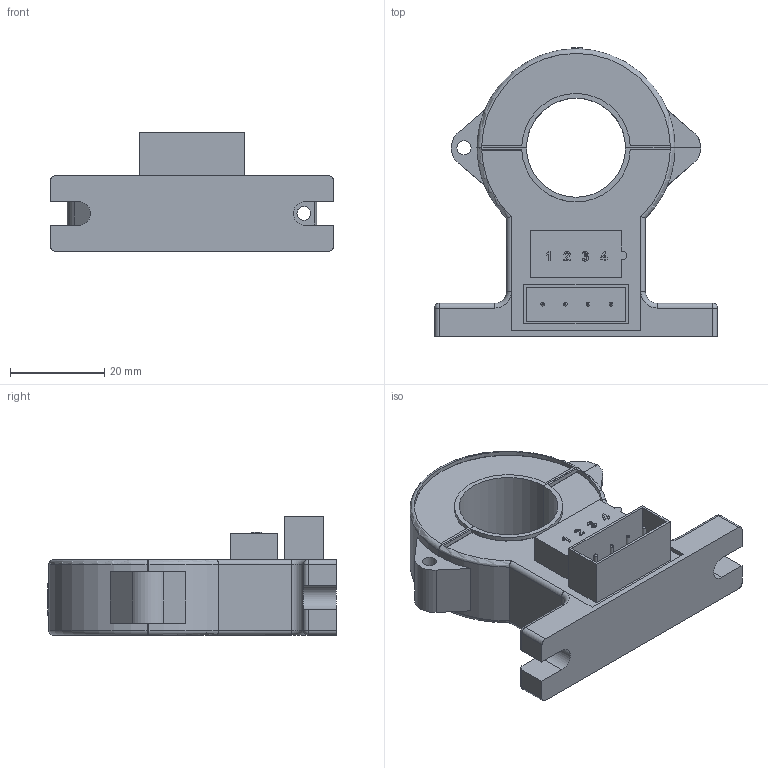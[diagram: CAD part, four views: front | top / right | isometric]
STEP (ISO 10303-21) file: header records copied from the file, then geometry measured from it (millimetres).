
FILE_DESCRIPTION(('FreeCAD Model'),'2;1');
FILE_NAME('Open CASCADE Shape Model','2022-01-01T12:43:22',('Author'),( ''),'Open CASCADE STEP processor 7.5','FreeCAD','Unknown');
FILE_SCHEMA(('AUTOMOTIVE_DESIGN { 1 0 10303 214 1 1 1 1 }'));
Length unit declared in the file: millimetre
Products named in the file (15): Unnamed; Solid002; Solid004; Solid001; Solid003; Solid044; Solid043; Solid040; Solid041; Solid036; Solid038; Solid037; Solid039; Solid042; Solid
Assembly tree (14 placements, depth 2):
  Unnamed
    Solid002
    Solid004
    Solid001
    Solid003
    Solid044
    Solid043
    Solid040
    Solid041
    Solid036
    Solid038
    Solid037
    Solid039
    Solid042
    Solid
Bounding box: 60 x 61.25 x 25.1 mm (x, y, z)
Volume: 30362.2 mm3; surface area: 15796.9 mm2
Topology: 14 solids, 14 shells, 252 faces, 627 edges, 408 vertices
Faces by surface type: plane 138, cylinder 49, bspline 49, torus 12, sphere 4
Full cylindrical faces by diameter (mm): 0.75 x4, 2.9 x2, 3 x1
Entity records: 17512 total; most frequent: CARTESIAN_POINT 5060, DIRECTION 2062, LINE 1331, VECTOR 1331, ORIENTED_EDGE 1254, PCURVE 1254, DEFINITIONAL_REPRESENTATION 1254, EDGE_CURVE 627
